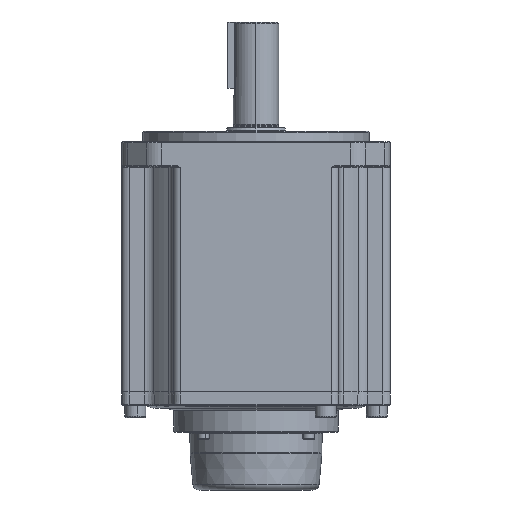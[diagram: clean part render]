
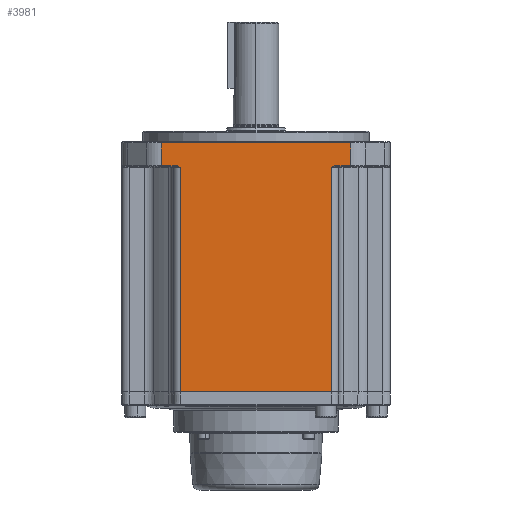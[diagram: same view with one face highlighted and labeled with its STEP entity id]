
A CAD part, front view. The second image highlights one B-rep face of the part: STEP entity #3981.
In plain terms, the highlighted planar face has unit normal (0, -1, 0).
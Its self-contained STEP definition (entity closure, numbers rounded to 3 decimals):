
#619 = CARTESIAN_POINT ( 'NONE',  ( -36.401, -65., -17.5 ) ) ;
#638 = DIRECTION ( 'NONE',  ( 1., 0., 0. ) ) ;
#3105 = CARTESIAN_POINT ( 'NONE',  ( 36.819, -65., -17.262 ) ) ;
#3981 = ADVANCED_FACE ( 'NONE', ( #5447 ), #57584, .T. ) ;
#4130 = DIRECTION ( 'NONE',  ( 0., 0., 1. ) ) ;
#4734 = EDGE_CURVE ( 'NONE', #72144, #72601, #51915, .T. ) ;
#5243 = CARTESIAN_POINT ( 'NONE',  ( 50., -65., -16.5 ) ) ;
#5447 = FACE_OUTER_BOUND ( 'NONE', #53513, .T. ) ;
#6737 = LINE ( 'NONE', #5243, #48332 ) ;
#10696 = AXIS2_PLACEMENT_3D ( 'NONE', #88119, #19507, #58600 ) ;
#12457 = CARTESIAN_POINT ( 'NONE',  ( 50., -65., -16.5 ) ) ;
#13413 = VERTEX_POINT ( 'NONE', #71249 ) ;
#13440 = CARTESIAN_POINT ( 'NONE',  ( -38.601, -65., -16.537 ) ) ;
#14247 = CARTESIAN_POINT ( 'NONE',  ( -45.858, -65., -312.548 ) ) ;
#14299 = DIRECTION ( 'NONE',  ( 0., 0., 1. ) ) ;
#14723 = DIRECTION ( 'NONE',  ( -1., 0., 0. ) ) ;
#15989 = LINE ( 'NONE', #93079, #81135 ) ;
#16688 = CARTESIAN_POINT ( 'NONE',  ( -45.858, -65., -5.5 ) ) ;
#18014 = LINE ( 'NONE', #12457, #49548 ) ;
#18703 = LINE ( 'NONE', #27660, #76604 ) ;
#19483 = DIRECTION ( 'NONE',  ( 1., 0., 0. ) ) ;
#19507 = DIRECTION ( 'NONE',  ( 0., -1., 0. ) ) ;
#22431 = CARTESIAN_POINT ( 'NONE',  ( -38.84, -65., -16.5 ) ) ;
#25319 = EDGE_CURVE ( 'NONE', #57475, #80086, #45777, .T. ) ;
#26197 = CARTESIAN_POINT ( 'NONE',  ( 39.084, -65., -16.5 ) ) ;
#26856 = CARTESIAN_POINT ( 'NONE',  ( 36.401, -65., -17.5 ) ) ;
#27161 = CARTESIAN_POINT ( 'NONE',  ( 37.903, -65., -16.739 ) ) ;
#27474 = VECTOR ( 'NONE', #29248, 1000. ) ;
#27660 = CARTESIAN_POINT ( 'NONE',  ( -36.401, -65., -128.7 ) ) ;
#27954 = CARTESIAN_POINT ( 'NONE',  ( -38.133, -65., -16.656 ) ) ;
#28657 = CARTESIAN_POINT ( 'NONE',  ( 45.858, -65., -5.5 ) ) ;
#28847 = VERTEX_POINT ( 'NONE', #82088 ) ;
#29248 = DIRECTION ( 'NONE',  ( 0., 0., -1. ) ) ;
#30263 = EDGE_CURVE ( 'NONE', #83050, #65432, #18703, .T. ) ;
#31799 = VERTEX_POINT ( 'NONE', #93332 ) ;
#31996 = CARTESIAN_POINT ( 'NONE',  ( -36.401, -65., -126.1 ) ) ;
#33697 = CARTESIAN_POINT ( 'NONE',  ( 38.133, -65., -16.656 ) ) ;
#37706 = EDGE_CURVE ( 'NONE', #13413, #65432, #62785, .T. ) ;
#37933 = ORIENTED_EDGE ( 'NONE', *, *, #76555, .T. ) ;
#40730 = CARTESIAN_POINT ( 'NONE',  ( 37.239, -65., -17.023 ) ) ;
#43309 = LINE ( 'NONE', #14247, #27474 ) ;
#44004 = CARTESIAN_POINT ( 'NONE',  ( -36.82, -65., -17.262 ) ) ;
#45777 = LINE ( 'NONE', #16688, #53129 ) ;
#48332 = VECTOR ( 'NONE', #74893, 1000. ) ;
#49548 = VECTOR ( 'NONE', #19483, 1000. ) ;
#50475 = B_SPLINE_CURVE_WITH_KNOTS ( 'NONE', 3,
 ( #95789, #3105, #40730, #27161, #33697, #63297, #72293, #86296 ),
 .UNSPECIFIED., .F., .F.,
 ( 4, 2, 2, 4 ),
 ( 0., 0.001, 0.002, 0.003 ),
 .UNSPECIFIED. ) ;
#51669 = ORIENTED_EDGE ( 'NONE', *, *, #54931, .T. ) ;
#51915 = LINE ( 'NONE', #52419, #88507 ) ;
#52419 = CARTESIAN_POINT ( 'NONE',  ( 36.401, -65., -128.7 ) ) ;
#52652 = EDGE_CURVE ( 'NONE', #75350, #31799, #18014, .T. ) ;
#53021 = CARTESIAN_POINT ( 'NONE',  ( -37.239, -65., -17.023 ) ) ;
#53129 = VECTOR ( 'NONE', #14723, 1000. ) ;
#53211 = ORIENTED_EDGE ( 'NONE', *, *, #4734, .T. ) ;
#53513 = EDGE_LOOP ( 'NONE', ( #56726, #78257, #53211, #81567, #86613, #73021, #88445, #51669, #37933, #82818 ) ) ;
#54597 = DIRECTION ( 'NONE',  ( 0., 0., 1. ) ) ;
#54931 = EDGE_CURVE ( 'NONE', #80086, #28847, #43309, .T. ) ;
#55632 = EDGE_CURVE ( 'NONE', #83050, #72144, #69337, .T. ) ;
#56726 = ORIENTED_EDGE ( 'NONE', *, *, #30263, .F. ) ;
#57475 = VERTEX_POINT ( 'NONE', #28657 ) ;
#57584 = PLANE ( 'NONE',  #10696 ) ;
#58600 = DIRECTION ( 'NONE',  ( 1., 0., 0. ) ) ;
#60390 = CARTESIAN_POINT ( 'NONE',  ( -45.858, -65., -5.5 ) ) ;
#62785 = B_SPLINE_CURVE_WITH_KNOTS ( 'NONE', 3,
 ( #91071, #22431, #13440, #27954, #89082, #53021, #44004, #83555 ),
 .UNSPECIFIED., .F., .F.,
 ( 4, 2, 2, 4 ),
 ( 0., 0.001, 0.001, 0.003 ),
 .UNSPECIFIED. ) ;
#63297 = CARTESIAN_POINT ( 'NONE',  ( 38.601, -65., -16.537 ) ) ;
#65432 = VERTEX_POINT ( 'NONE', #619 ) ;
#69337 = LINE ( 'NONE', #97907, #86825 ) ;
#71249 = CARTESIAN_POINT ( 'NONE',  ( -39.084, -65., -16.5 ) ) ;
#72144 = VERTEX_POINT ( 'NONE', #98747 ) ;
#72293 = CARTESIAN_POINT ( 'NONE',  ( 38.84, -65., -16.5 ) ) ;
#72601 = VERTEX_POINT ( 'NONE', #26856 ) ;
#73021 = ORIENTED_EDGE ( 'NONE', *, *, #87823, .T. ) ;
#74893 = DIRECTION ( 'NONE',  ( 1., 0., 0. ) ) ;
#75350 = VERTEX_POINT ( 'NONE', #26197 ) ;
#76555 = EDGE_CURVE ( 'NONE', #28847, #13413, #6737, .T. ) ;
#76604 = VECTOR ( 'NONE', #4130, 1000. ) ;
#76720 = EDGE_CURVE ( 'NONE', #72601, #75350, #50475, .T. ) ;
#78257 = ORIENTED_EDGE ( 'NONE', *, *, #55632, .T. ) ;
#80086 = VERTEX_POINT ( 'NONE', #60390 ) ;
#81135 = VECTOR ( 'NONE', #54597, 1000. ) ;
#81567 = ORIENTED_EDGE ( 'NONE', *, *, #76720, .T. ) ;
#82088 = CARTESIAN_POINT ( 'NONE',  ( -45.858, -65., -16.5 ) ) ;
#82818 = ORIENTED_EDGE ( 'NONE', *, *, #37706, .T. ) ;
#83050 = VERTEX_POINT ( 'NONE', #31996 ) ;
#83555 = CARTESIAN_POINT ( 'NONE',  ( -36.401, -65., -17.5 ) ) ;
#86296 = CARTESIAN_POINT ( 'NONE',  ( 39.084, -65., -16.5 ) ) ;
#86613 = ORIENTED_EDGE ( 'NONE', *, *, #52652, .T. ) ;
#86825 = VECTOR ( 'NONE', #638, 1000. ) ;
#87823 = EDGE_CURVE ( 'NONE', #31799, #57475, #15989, .T. ) ;
#88119 = CARTESIAN_POINT ( 'NONE',  ( 50., -65., -312.548 ) ) ;
#88445 = ORIENTED_EDGE ( 'NONE', *, *, #25319, .T. ) ;
#88507 = VECTOR ( 'NONE', #14299, 1000. ) ;
#89082 = CARTESIAN_POINT ( 'NONE',  ( -37.903, -65., -16.739 ) ) ;
#91071 = CARTESIAN_POINT ( 'NONE',  ( -39.084, -65., -16.5 ) ) ;
#93079 = CARTESIAN_POINT ( 'NONE',  ( 45.858, -65., -312.548 ) ) ;
#93332 = CARTESIAN_POINT ( 'NONE',  ( 45.858, -65., -16.5 ) ) ;
#95789 = CARTESIAN_POINT ( 'NONE',  ( 36.401, -65., -17.5 ) ) ;
#97907 = CARTESIAN_POINT ( 'NONE',  ( 50., -65., -126.1 ) ) ;
#98747 = CARTESIAN_POINT ( 'NONE',  ( 36.401, -65., -126.1 ) ) ;
